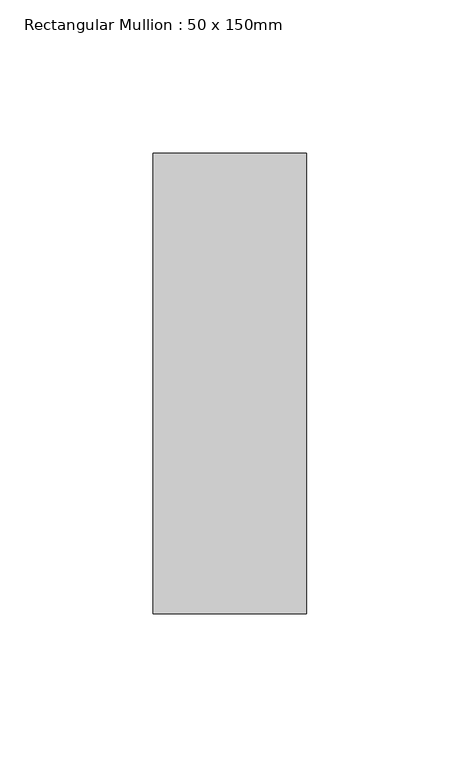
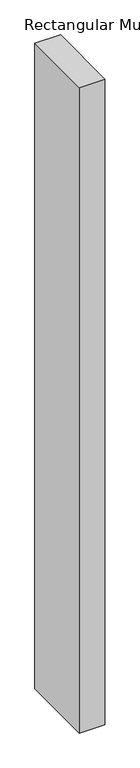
"""IFC4 building model written with IfcOpenShell, lengths in millimetres: member geometry, Rectangular Mullion : 50 x 150mm."""

from ifc_helpers import new_model, si_unit, frame, origin, place, context, project, spatial, polyline, outline, extrude, source, transform, mapped, element, save


def rectangular_mullion_50_x_150mm_f604f5a7(model_context):
    return source(origin(), model_context, "Body", "SweptSolid", [
        extrude(outline(polyline([(0.0, 75.0), (0.0, -75.0), (-50.0, -75.0), (-50.0, 75.0), (0.0, 75.0)])), frame((0.0, 0.0, -1331.4246224), z_axis=(0.0, 0.0, 1.0), x_axis=(1.0, 0.0, 0.0)), (0.0, 0.0, 1.0), 1331.4246224),
    ])


if __name__ == "__main__":
    model = new_model("IFC4")
    model_context = context("Model", 3, world=origin())
    ifc_project = project(units=[si_unit("LENGTHUNIT", "METRE", prefix="MILLI")], contexts=[model_context])
    site = spatial("IfcSite", under=ifc_project)
    building = spatial("IfcBuilding", under=site)
    placement = place(None, origin())
    rectangular_mullion_50_x_150mm_shape = rectangular_mullion_50_x_150mm_f604f5a7(model_context)
    element("IfcMember", 1, ObjectType="Rectangular Mullion : 50 x 150mm", at=placement, inside=building, context=model_context, shape_type="MappedRepresentation", body=[
        mapped(rectangular_mullion_50_x_150mm_shape, transform((0.0, 0.0, 0.0), x_axis=(1.0, 0.0, 0.0), y_axis=(0.0, 1.0, 0.0), z_axis=(0.0, 0.0, 1.0))),
    ])
    save(model, "model.ifc")
